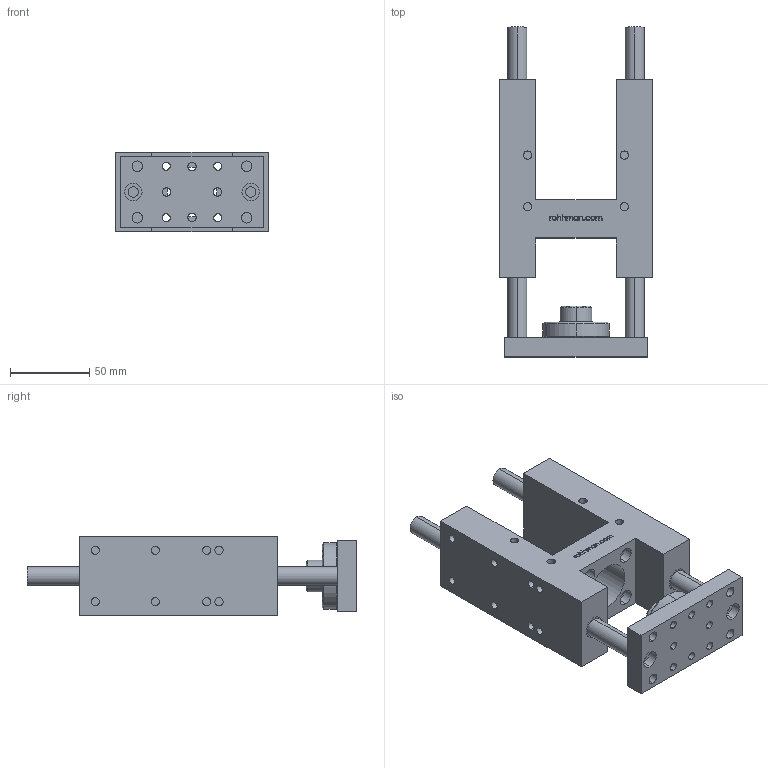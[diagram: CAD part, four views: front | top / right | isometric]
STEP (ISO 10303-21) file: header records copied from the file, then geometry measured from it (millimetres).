
FILE_DESCRIPTION (( 'STEP AP214' ), '1' );
FILE_NAME ('RHY_32.STEP', '2021-05-09T08:12:30', ( '' ), ( '' ), 'SwSTEP 2.0', 'SolidWorks 2021', '' );
FILE_SCHEMA (( 'AUTOMOTIVE_DESIGN' ));
Length unit declared in the file: millimetre
Products named in the file (6): Part3; RHY_32; userCB365msi; userCB365msq; Part2; userCB365ms8
Assembly tree (5 placements, depth 2):
  RHY_32
    userCB365msi
    userCB365msq
    userCB365ms8
    Part2
    Part3
Bounding box: 97 x 208 x 50 mm (x, y, z)
Volume: 396577.8 mm3; surface area: 104560 mm2
Topology: 9 solids, 9 shells, 383 faces, 934 edges, 620 vertices
Faces by surface type: cylinder 148, plane 144, bspline 81, cone 10
Entity records: 19809 total; most frequent: CARTESIAN_POINT 6418, ORIENTED_EDGE 1868, DIRECTION 1700, EDGE_CURVE 934, VERTEX_POINT 620, AXIS2_PLACEMENT_3D 618, EDGE_LOOP 494, LINE 464
